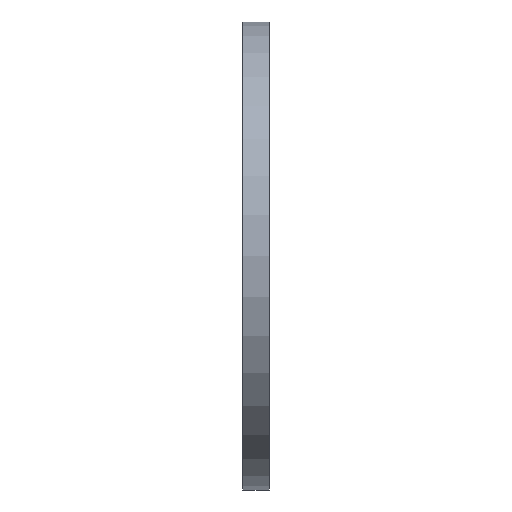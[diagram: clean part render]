
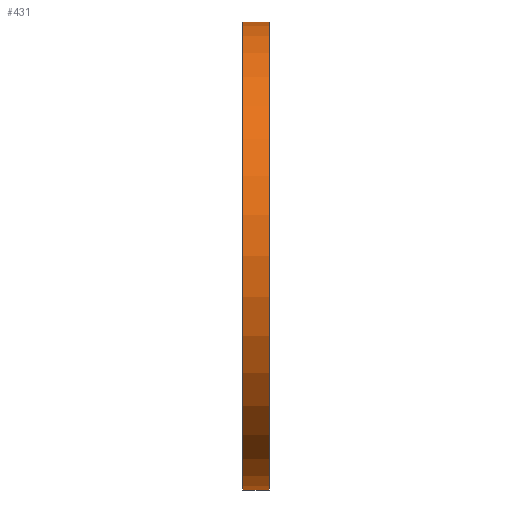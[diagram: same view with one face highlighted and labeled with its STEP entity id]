
A CAD part, left-side view. The second image highlights one B-rep face of the part: STEP entity #431.
In plain terms, the highlighted cylindrical face has radius 142.5 mm (diameter 285 mm), a partial arc.
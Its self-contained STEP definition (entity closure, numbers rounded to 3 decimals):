
#35 = CARTESIAN_POINT ( 'NONE',  ( 0., 0., -142.5 ) ) ;
#83 = CARTESIAN_POINT ( 'NONE',  ( 0., 0., 142.5 ) ) ;
#149 = EDGE_CURVE ( 'NONE', #583, #1001, #903, .T. ) ;
#193 = EDGE_CURVE ( 'NONE', #1001, #978, #1160, .T. ) ;
#266 = AXIS2_PLACEMENT_3D ( 'NONE', #417, #1126, #1035 ) ;
#273 = AXIS2_PLACEMENT_3D ( 'NONE', #348, #541, #453 ) ;
#325 = EDGE_CURVE ( 'NONE', #583, #353, #673, .T. ) ;
#348 = CARTESIAN_POINT ( 'NONE',  ( 0., 0., 0. ) ) ;
#353 = VERTEX_POINT ( 'NONE', #742 ) ;
#364 = DIRECTION ( 'NONE',  ( 0., -1., 0. ) ) ;
#417 = CARTESIAN_POINT ( 'NONE',  ( 0., 16., 0. ) ) ;
#421 = ORIENTED_EDGE ( 'NONE', *, *, #149, .F. ) ;
#431 = ADVANCED_FACE ( 'NONE', ( #855 ), #1146, .T. ) ;
#453 = DIRECTION ( 'NONE',  ( 0., 0., -1. ) ) ;
#524 = CARTESIAN_POINT ( 'NONE',  ( 0., 0., 142.5 ) ) ;
#537 = VECTOR ( 'NONE', #830, 1000. ) ;
#541 = DIRECTION ( 'NONE',  ( 0., -1., 0. ) ) ;
#564 = CARTESIAN_POINT ( 'NONE',  ( 0., 16., 142.5 ) ) ;
#572 = DIRECTION ( 'NONE',  ( 0., 0., -1. ) ) ;
#583 = VERTEX_POINT ( 'NONE', #564 ) ;
#598 = DIRECTION ( 'NONE',  ( 0., -1., 0. ) ) ;
#608 = ORIENTED_EDGE ( 'NONE', *, *, #325, .T. ) ;
#633 = AXIS2_PLACEMENT_3D ( 'NONE', #1233, #364, #572 ) ;
#673 = CIRCLE ( 'NONE', #266, 142.5 ) ;
#728 = EDGE_LOOP ( 'NONE', ( #421, #608, #798, #1204 ) ) ;
#742 = CARTESIAN_POINT ( 'NONE',  ( 0., 16., -142.5 ) ) ;
#798 = ORIENTED_EDGE ( 'NONE', *, *, #848, .T. ) ;
#830 = DIRECTION ( 'NONE',  ( 0., -1., 0. ) ) ;
#848 = EDGE_CURVE ( 'NONE', #353, #978, #894, .T. ) ;
#855 = FACE_OUTER_BOUND ( 'NONE', #728, .T. ) ;
#894 = LINE ( 'NONE', #35, #1026 ) ;
#903 = LINE ( 'NONE', #524, #537 ) ;
#978 = VERTEX_POINT ( 'NONE', #1131 ) ;
#1001 = VERTEX_POINT ( 'NONE', #83 ) ;
#1026 = VECTOR ( 'NONE', #598, 1000. ) ;
#1035 = DIRECTION ( 'NONE',  ( 0., 0., -1. ) ) ;
#1126 = DIRECTION ( 'NONE',  ( 0., -1., 0. ) ) ;
#1131 = CARTESIAN_POINT ( 'NONE',  ( 0., 0., -142.5 ) ) ;
#1146 = CYLINDRICAL_SURFACE ( 'NONE', #633, 142.5 ) ;
#1160 = CIRCLE ( 'NONE', #273, 142.5 ) ;
#1204 = ORIENTED_EDGE ( 'NONE', *, *, #193, .F. ) ;
#1233 = CARTESIAN_POINT ( 'NONE',  ( 0., 0., 0. ) ) ;
